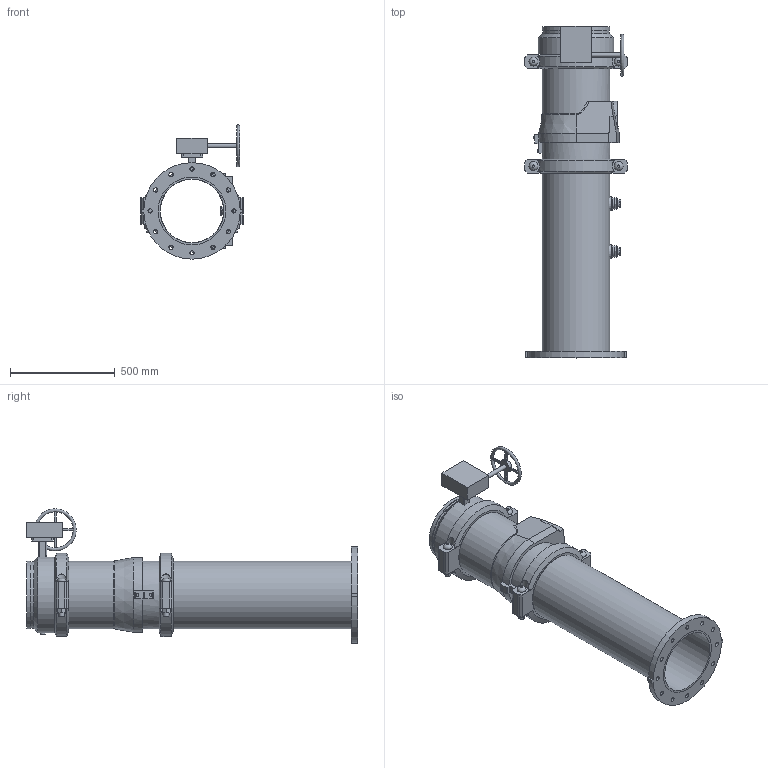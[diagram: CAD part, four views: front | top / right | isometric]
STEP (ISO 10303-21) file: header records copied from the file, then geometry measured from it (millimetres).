
FILE_DESCRIPTION(/* description */ ('VIC DVI PUMP DROP VERT S/390 (OGSxFLG)','CAx-IF Rec.Pracs.---Representation and Presentation of Product Manufacturing Information (PMI)---4.0---2014-10-13'),/* implementation_level */ '2;1');
FILE_NAME(/* name */ 'C:\Users\Vjadhav\AppData\Roaming\Autodesk\ApplicationPlugins\Back Up\Victaulic_IPS_Vertical DVI_PN10_Series 390 (OGSxFLG)\Victaulic_IPS_Vertical DVI_PN10_Series 390 (OGSxFLG)_12.0x12.0 (300x300).stp',/* time_stamp */ '2020-11-09T17:52:25+05:00',/* author */ ('Vjadhav'),/* organization */ ('Victaulic'),/* preprocessor_version */ 'ST-DEVELOPER v17.2',/* originating_system */ 'Autodesk Inventor 2019',/* authorisation */ '');
FILE_SCHEMA (('AP242_MANAGED_MODEL_BASED_3D_ENGINEERING_MIM_LF { 1 0 10303 442 1 1 4 }'));
Length unit declared in the file: inch
Products named in the file (7): 390-12.0x12.0; 741-12.0; Pipe-12.0; 716-12.0; 923-10.0x0.75; 761-12.0; 077-12.0
Assembly tree (8 placements, depth 2):
  390-12.0x12.0
    741-12.0
    Pipe-12.0
    716-12.0
    923-10.0x0.75  x2
    761-12.0
    077-12.0  x2
Bounding box: 488.95 x 1583.69 x 641.21 mm (x, y, z)
Volume: 32511711.8 mm3; surface area: 4480697.9 mm2
Topology: 8 solids, 13 shells, 402 faces, 1017 edges, 688 vertices
Faces by surface type: plane 241, cylinder 135, cone 14, bspline 6, torus 6
Full cylindrical faces by diameter (mm): 10.922 x4, 12.7 x2, 20.066 x13, 21.336 x2, 22.86 x1, 25.4 x8, 26.67 x2, 27.432 x4, 31.75 x1, 45.974 x4, 55.626 x2, 63.079 x1, 70.104 x1, 76.2 x2, 303.225 x1, 304.8 x1, 309.677 x1, 314.96 x2, 318.287 x6, 323.85 x16, 361.95 x1
Entity records: 9744 total; most frequent: CARTESIAN_POINT 1939, DIRECTION 1581, ORIENTED_EDGE 1452, EDGE_CURVE 726, AXIS2_PLACEMENT_3D 607, VERTEX_POINT 495, LINE 367, VECTOR 367
